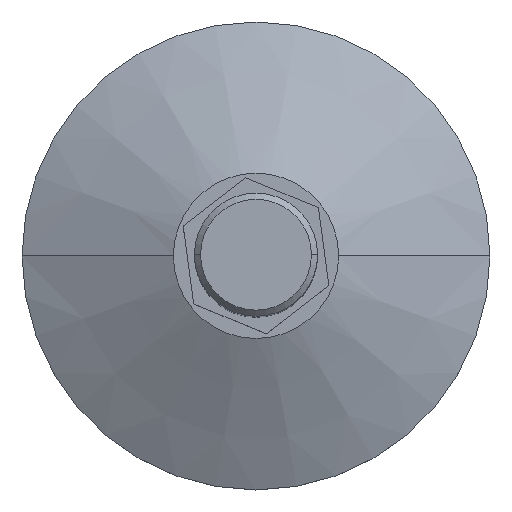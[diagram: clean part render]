
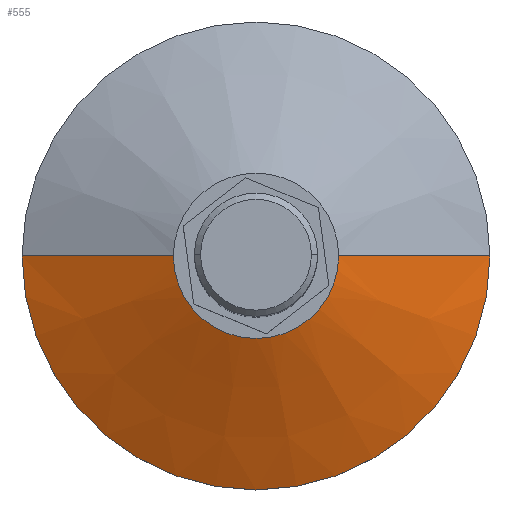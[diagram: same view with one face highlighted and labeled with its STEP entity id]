
A CAD part, top view. The second image highlights one B-rep face of the part: STEP entity #555.
In plain terms, the highlighted conical face has half-angle 64.907 degrees and reference radius 19 mm.
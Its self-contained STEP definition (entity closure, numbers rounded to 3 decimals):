
#60 = CARTESIAN_POINT ( 'NONE',  ( 0., 0., 2.246 ) ) ;
#65 = EDGE_CURVE ( 'NONE', #283, #749, #489, .T. ) ;
#121 = CARTESIAN_POINT ( 'NONE',  ( 19., 0., 2.246 ) ) ;
#153 = ORIENTED_EDGE ( 'NONE', *, *, #430, .F. ) ;
#159 = DIRECTION ( 'NONE',  ( -0.906, 0., -0.424 ) ) ;
#160 = CONICAL_SURFACE ( 'NONE', #927, 19., 1.133 ) ;
#186 = CARTESIAN_POINT ( 'NONE',  ( 0., 0., 2.246 ) ) ;
#216 = DIRECTION ( 'NONE',  ( -1., 0., 0. ) ) ;
#242 = AXIS2_PLACEMENT_3D ( 'NONE', #60, #381, #216 ) ;
#247 = ORIENTED_EDGE ( 'NONE', *, *, #888, .F. ) ;
#283 = VERTEX_POINT ( 'NONE', #850 ) ;
#287 = ORIENTED_EDGE ( 'NONE', *, *, #711, .F. ) ;
#381 = DIRECTION ( 'NONE',  ( 0., 0., -1. ) ) ;
#427 = DIRECTION ( 'NONE',  ( -1., 0., 0. ) ) ;
#430 = EDGE_CURVE ( 'NONE', #713, #749, #564, .T. ) ;
#449 = DIRECTION ( 'NONE',  ( 0., 0., -1. ) ) ;
#476 = ORIENTED_EDGE ( 'NONE', *, *, #65, .T. ) ;
#489 = LINE ( 'NONE', #836, #683 ) ;
#491 = DIRECTION ( 'NONE',  ( 1., 0., 0. ) ) ;
#500 = CARTESIAN_POINT ( 'NONE',  ( 0., 0., 8. ) ) ;
#518 = VECTOR ( 'NONE', #640, 1000. ) ;
#548 = CIRCLE ( 'NONE', #795, 6.714 ) ;
#555 = ADVANCED_FACE ( 'NONE', ( #1027 ), #160, .T. ) ;
#564 = CIRCLE ( 'NONE', #242, 19. ) ;
#640 = DIRECTION ( 'NONE',  ( 0.906, 0., -0.424 ) ) ;
#683 = VECTOR ( 'NONE', #159, 1000. ) ;
#711 = EDGE_CURVE ( 'NONE', #917, #713, #801, .T. ) ;
#713 = VERTEX_POINT ( 'NONE', #121 ) ;
#749 = VERTEX_POINT ( 'NONE', #783 ) ;
#783 = CARTESIAN_POINT ( 'NONE',  ( -19., 0., 2.246 ) ) ;
#795 = AXIS2_PLACEMENT_3D ( 'NONE', #500, #815, #491 ) ;
#801 = LINE ( 'NONE', #1045, #518 ) ;
#815 = DIRECTION ( 'NONE',  ( 0., 0., 1. ) ) ;
#828 = CARTESIAN_POINT ( 'NONE',  ( 6.714, 0., 8. ) ) ;
#829 = EDGE_LOOP ( 'NONE', ( #287, #247, #476, #153 ) ) ;
#836 = CARTESIAN_POINT ( 'NONE',  ( -19., 0., 2.246 ) ) ;
#850 = CARTESIAN_POINT ( 'NONE',  ( -6.714, 0., 8. ) ) ;
#888 = EDGE_CURVE ( 'NONE', #283, #917, #548, .T. ) ;
#917 = VERTEX_POINT ( 'NONE', #828 ) ;
#927 = AXIS2_PLACEMENT_3D ( 'NONE', #186, #449, #427 ) ;
#1027 = FACE_OUTER_BOUND ( 'NONE', #829, .T. ) ;
#1045 = CARTESIAN_POINT ( 'NONE',  ( 19., 0., 2.246 ) ) ;
